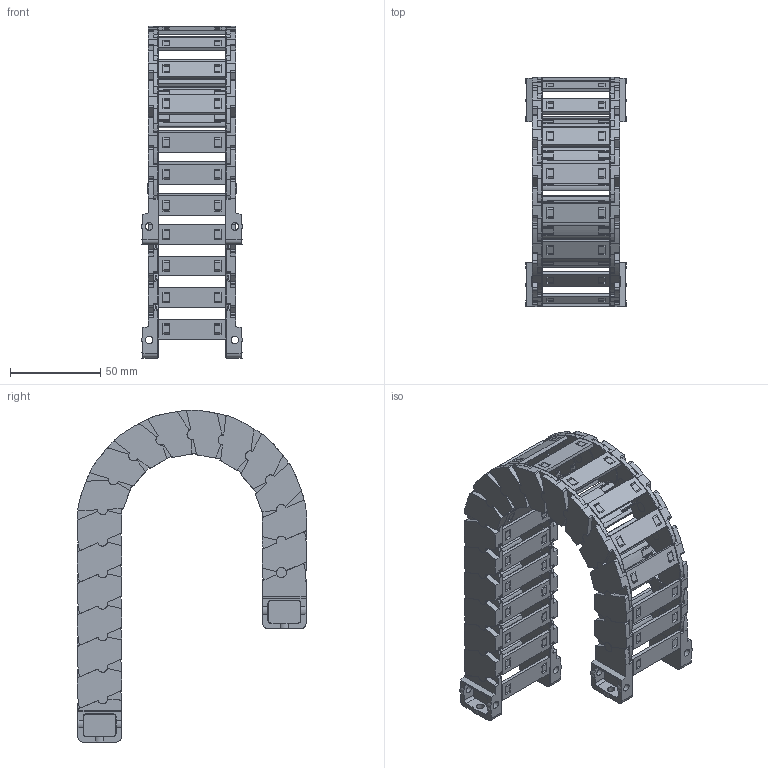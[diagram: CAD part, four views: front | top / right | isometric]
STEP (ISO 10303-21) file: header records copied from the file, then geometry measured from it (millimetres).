
FILE_DESCRIPTION((''),'2;1');
FILE_NAME('JY-18X37-R50_ASM','2022-05-06T08:46:48',('admin'),(''),'CREO PARAMETRIC BY PTC INC, 2021164','CREO PARAMETRIC BY PTC INC, 2021164','');
FILE_SCHEMA(('CONFIG_CONTROL_DESIGN','GEOMETRIC_VALIDATION_PROPERTIES_MIM'));
Length unit declared in the file: millimetre
Products named in the file (11): 18XL-L; 18XL-YP; 18XL-R; ASM0001_ASM; 18-LTT-A-L; 18-LTT-A-R; 18XL-LTT-A_ASM; 18-LTT-B-L; 18-LTT-B-R; 18XL-LTT-B_ASM; JY-18X37-R50_ASM
Assembly tree (30 placements, depth 3):
  JY-18X37-R50_ASM
    ASM0001_ASM  x16
      18XL-L
      18XL-YP
      18XL-R
    18XL-LTT-A_ASM
      18-LTT-A-L
      18XL-YP  x2
      18-LTT-A-R
    18XL-LTT-B_ASM
      18-LTT-B-L
      18XL-YP  x2
      18-LTT-B-R
Bounding box: 55.7 x 127.18 x 184.26 mm (x, y, z)
Volume: 121014.4 mm3; surface area: 118061 mm2
Topology: 72 solids, 72 shells, 4928 faces, 13959 edges, 9075 vertices
Faces by surface type: plane 2536, cylinder 1534, bspline 504, torus 304, cone 50
Entity records: 24072 total; most frequent: CARTESIAN_POINT 7283, ORIENTED_EDGE 3438, DIRECTION 3228, EDGE_CURVE 1719, VERTEX_POINT 1125, AXIS2_PLACEMENT_3D 1108, VECTOR 1012, LINE 1012
